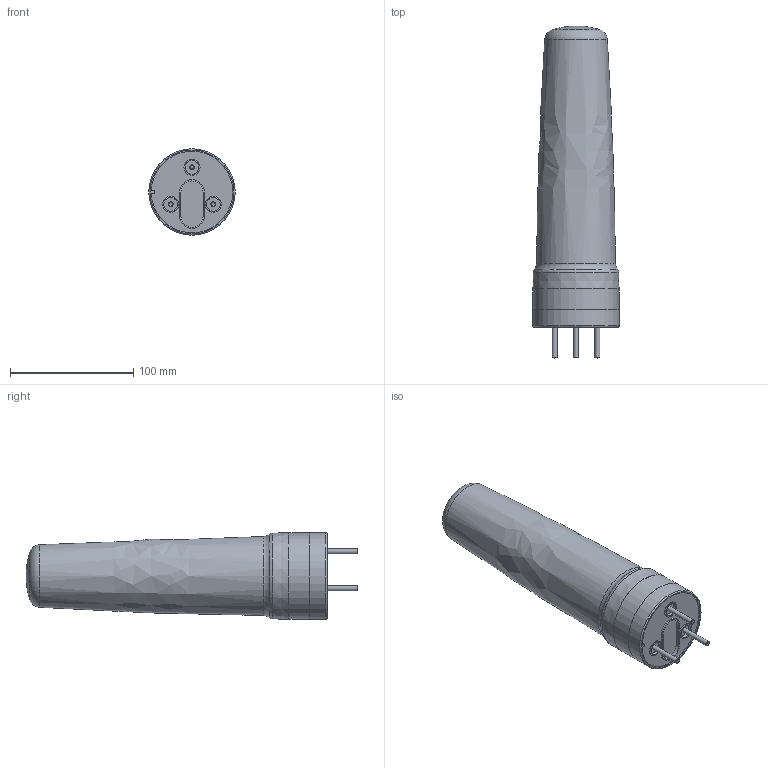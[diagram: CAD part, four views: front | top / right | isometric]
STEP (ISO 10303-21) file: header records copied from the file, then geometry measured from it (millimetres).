
FILE_DESCRIPTION( ( 'STEP AP203' ), ' ' );
FILE_NAME( 'p:/temp/worker_1/3744_3912/app_43_02018021909241098115731192d056f_000000_00_00_000000/format_6/DV2520.stp', '2018-02-19T08:24:12', ( '' ), ( '' ), ' ', 'PARTsolutions', ' ' );
FILE_SCHEMA( ( 'CONFIG_CONTROL_DESIGN' ) );
Length unit declared in the file: millimetre
Products named in the file (1): _DV2520
Bounding box: 70 x 269 x 70 mm (x, y, z)
Volume: 705615.1 mm3; surface area: 53665 mm2
Topology: 1 solids, 1 shells, 50 faces, 104 edges, 69 vertices
Faces by surface type: plane 22, cylinder 18, cone 4, torus 4, sphere 1, bspline 1
Full cylindrical faces by diameter (mm): 4 x3, 11 x3, 13 x3, 69.8 x1, 70 x1
Entity records: 1231 total; most frequent: DIRECTION 220, CARTESIAN_POINT 213, ORIENTED_EDGE 148, AXIS2_PLACEMENT_3D 96, EDGE_LOOP 84, EDGE_CURVE 74, FACE_OUTER_BOUND 66, VERTEX_POINT 61
